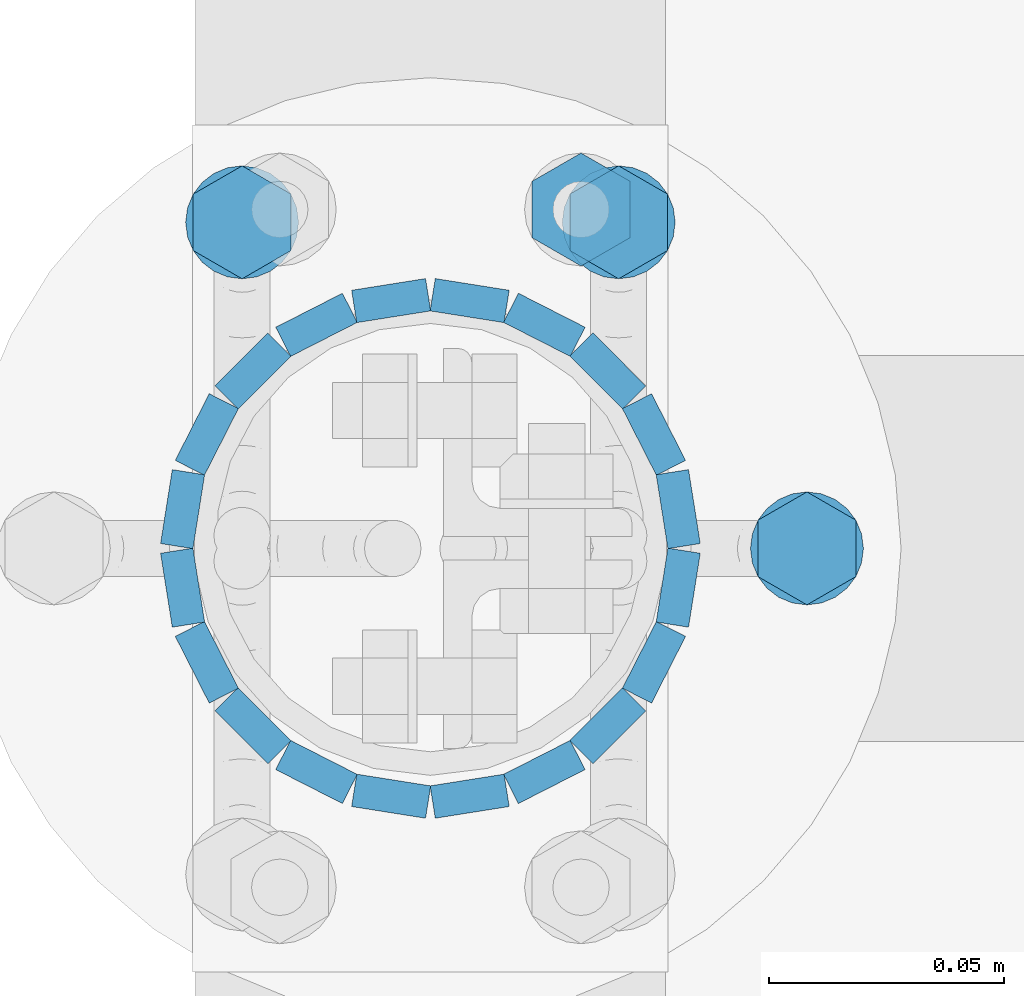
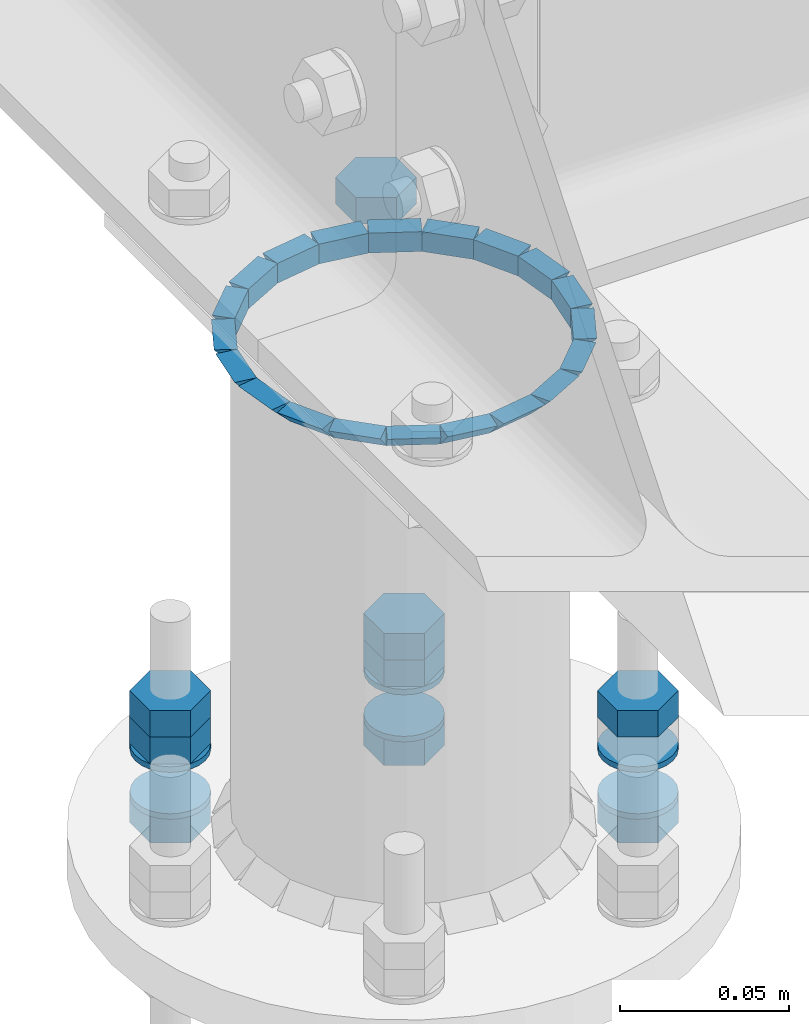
# One storey, part 17 of 84: 40 fasteners, 15 mechanical fasteners.
"""IFC4 building model written with IfcOpenShell, lengths in metres."""

import ifcopenshell
import ifcopenshell.guid

model = None  # the IFC model being written
_history = None  # IfcOwnerHistory: only IFC2X3 demands one
_inside = {}  # id of a spatial element -> (the spatial element, [elements in it])
_under = {}  # id of a project, library or spatial element -> (it, [spatial elements below it])
_declared = {}  # id of a project -> (the project, [libraries it declares])
_typed = {}  # id of a type object -> (the type object, [elements of that type])
_made_of = {}  # id of a material, layer set ... -> (it, [elements and type objects made of it])


def new_model(schema):
    """Start an empty IFC model of exactly this schema.

    Asked for "IFC4X3", IfcOpenShell would pick the latest addendum, in which some entities
    have other attributes; the version numbers below select the first issue.
    IFC2X3 requires an IfcOwnerHistory on every rooted entity: one is made here for all.
    """
    global model, _history
    if schema == "IFC4X3":
        model = ifcopenshell.file(schema_version=(4, 3, 0, 0))
    else:
        model = ifcopenshell.file(schema=schema)
    _inside.clear()
    _under.clear()
    _declared.clear()
    _typed.clear()
    _made_of.clear()
    _history = None
    if model.schema == "IFC2X3":
        org = make("IfcOrganization", Name="unknown")
        user = make(
            "IfcPersonAndOrganization",
            ThePerson=make("IfcPerson", FamilyName="unknown"),
            TheOrganization=org,
        )
        app = make(
            "IfcApplication",
            ApplicationDeveloper=org,
            Version="unknown",
            ApplicationFullName="unknown",
            ApplicationIdentifier="unknown",
        )
        _history = make(
            "IfcOwnerHistory",
            OwningUser=user,
            OwningApplication=app,
            ChangeAction="ADDED",
            CreationDate=0,
        )
    return model


def make(cls, **values):
    """One entity of the class cls with the attributes given. An attribute that is None is left unset."""
    return model.create_entity(
        cls, **{name: value for name, value in values.items() if value is not None}
    )


def rooted(cls, **values):
    """An entity with a GlobalId (a new one), such as an element, a storey or a relation."""
    return make(cls, GlobalId=ifcopenshell.guid.new(), OwnerHistory=_history, **values)


def si_unit(unit_type, name, prefix=None):
    """IfcSIUnit, for example si_unit("LENGTHUNIT", "METRE", prefix="MILLI")."""
    return make("IfcSIUnit", UnitType=unit_type, Prefix=prefix, Name=name)


def assignment(units):
    """IfcUnitAssignment: the units of a project."""
    return None if units is None else make("IfcUnitAssignment", Units=units)


def point(xyz):
    """IfcCartesianPoint."""
    return None if xyz is None else make("IfcCartesianPoint", Coordinates=xyz)


def direction(xyz):
    """IfcDirection."""
    return None if xyz is None else make("IfcDirection", DirectionRatios=xyz)


def frame(location, z_axis=None, x_axis=None):
    """IfcAxis2Placement3D, a coordinate frame: its origin and axes. An axis left out is left unset."""
    return make(
        "IfcAxis2Placement3D",
        Location=point(location),
        Axis=direction(z_axis),
        RefDirection=direction(x_axis),
    )


def origin_with_axes():
    """The frame at (0, 0, 0) with the z axis (0, 0, 1) and the x axis (1, 0, 0) written out."""
    return frame((0.0, 0.0, 0.0), z_axis=(0.0, 0.0, 1.0), x_axis=(1.0, 0.0, 0.0))


def place(relative_to, where):
    """IfcLocalPlacement: puts the frame where relative to a parent placement (None: the world)."""
    return make(
        "IfcLocalPlacement", PlacementRelTo=relative_to, RelativePlacement=where
    )


def context(
    kind, dimensions, precision=None, world=None, true_north=None, identifier=None
):
    """IfcGeometricRepresentationContext, for example the 3D "Model" context."""
    return make(
        "IfcGeometricRepresentationContext",
        ContextIdentifier=identifier,
        ContextType=kind,
        CoordinateSpaceDimension=dimensions,
        Precision=precision,
        WorldCoordinateSystem=world,
        TrueNorth=true_north,
    )


def project(units=None, contexts=None):
    """IfcProject with its units and contexts."""
    return rooted(
        "IfcProject",
        Name="project",
        RepresentationContexts=contexts,
        UnitsInContext=assignment(units),
    )


def spatial(cls, under=None, at=None, **own):
    """A site, building, storey or space (cls), placed at a placement, below another one or the project."""
    s = rooted(cls, ObjectPlacement=at, **own)
    if under is not None:
        _under.setdefault(under.id(), (under, []))[1].append(s)
    return s


def polyline(points):
    """IfcPolyline through the points."""
    return make("IfcPolyline", Points=[point(p) for p in points])


def outline(outer, holes=None, kind="AREA"):
    """IfcArbitraryClosedProfileDef: a profile drawn as a closed curve; with holes, ...WithVoids."""
    if holes is None:
        return make("IfcArbitraryClosedProfileDef", ProfileType=kind, OuterCurve=outer)
    return make(
        "IfcArbitraryProfileDefWithVoids",
        ProfileType=kind,
        OuterCurve=outer,
        InnerCurves=holes,
    )


def extrude(swept, where, along, depth):
    """IfcExtrudedAreaSolid: the profile swept, set in the frame where, extruded along a direction by depth."""
    return make(
        "IfcExtrudedAreaSolid",
        SweptArea=swept,
        Position=where,
        ExtrudedDirection=direction(along),
        Depth=depth,
    )


def shape(context_of_items, identifier, shape_type, items):
    """IfcShapeRepresentation: the items that make up one representation, for example the "Body"."""
    return make(
        "IfcShapeRepresentation",
        ContextOfItems=context_of_items,
        RepresentationIdentifier=identifier,
        RepresentationType=shape_type,
        Items=items,
    )


def made_of(thing, what):
    """Note that an element or type object is made of a material, layer set ...; save() writes the relation."""
    if what is not None:
        _made_of.setdefault(what.id(), (what, []))[1].append(thing)
    return thing


def type_object(cls, material=None, **own):
    """A type object (cls), such as IfcWallType, which elements share."""
    return made_of(rooted(cls, **own), material)


def element(
    cls,
    number,
    at=None,
    inside=None,
    cuts=None,
    type_object=None,
    material=None,
    context=None,
    identifier="Body",
    shape_type=None,
    held_by="IfcProductDefinitionShape",
    body=None,
    shapes=None,
    **own,
):
    """One element of the class cls, such as IfcWall. Its Tag is "e" and its number.

    at: its placement. inside: the storey or other place that contains it. cuts: it is an
    opening in that element (IfcRelVoidsElement). A single representation is given by context,
    identifier, shape_type and body (its items); several are given by shapes. held_by: the class
    of the entity that holds the representations. save() writes the other relations.
    """
    e = rooted(cls, Tag="e%d" % number, ObjectPlacement=at, **own)
    if body is not None:
        shapes = [shape(context, identifier, shape_type, body)]
    if shapes is not None:
        e.Representation = make(held_by, Representations=shapes)
    if inside is not None:
        _inside.setdefault(inside.id(), (inside, []))[1].append(e)
    if cuts is not None:
        rooted(
            "IfcRelVoidsElement", RelatingBuildingElement=cuts, RelatedOpeningElement=e
        )
    if type_object is not None:
        _typed.setdefault(type_object.id(), (type_object, []))[1].append(e)
    return made_of(e, material)


def aggregate(whole, parts):
    """IfcRelAggregates: a whole, such as a stair, and the parts it consists of."""
    return rooted("IfcRelAggregates", RelatingObject=whole, RelatedObjects=parts)


def save(model, path):
    """Write the relations noted so far, then the file.

    IfcRelAggregates (storeys below a building ...), IfcRelContainedInSpatialStructure (elements
    in a storey), IfcRelDefinesByType, IfcRelAssociatesMaterial and IfcRelDeclares: one each for
    every whole, place, type object, material and project.
    """
    for whole, parts in _under.values():
        aggregate(whole, parts)
    for where, things in _inside.values():
        rooted(
            "IfcRelContainedInSpatialStructure",
            RelatedElements=things,
            RelatingStructure=where,
        )
    for kind, things in _typed.values():
        rooted("IfcRelDefinesByType", RelatedObjects=things, RelatingType=kind)
    for what, things in _made_of.values():
        rooted("IfcRelAssociatesMaterial", RelatedObjects=things, RelatingMaterial=what)
    for by, libraries in _declared.values():
        rooted("IfcRelDeclares", RelatingContext=by, RelatedDefinitions=libraries)
    model.write(path)


model = new_model("IFC4")

# Units and contexts
model_context = context("Model", 3, precision=1e-05, world=origin_with_axes())
ifc_project = project(units=[si_unit("LENGTHUNIT", "METRE"), si_unit("AREAUNIT", "SQUARE_METRE"), si_unit("VOLUMEUNIT", "CUBIC_METRE"), si_unit("MASSUNIT", "GRAM", prefix="KILO"), si_unit("TIMEUNIT", "SECOND"), si_unit("PLANEANGLEUNIT", "RADIAN"), si_unit("SOLIDANGLEUNIT", "STERADIAN"), si_unit("THERMODYNAMICTEMPERATUREUNIT", "DEGREE_CELSIUS")], contexts=[model_context])

# Site, building, storey
placement_1 = place(None, origin_with_axes())
site = spatial("IfcSite", under=ifc_project, at=placement_1, Name="Italia", CompositionType="ELEMENT")
building = spatial("IfcBuilding", under=site, at=placement_1, Name="Tettoia", CompositionType="ELEMENT")
storey_placement = place(None, frame((0.0, 0.0, 4.199999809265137), z_axis=(0.0, 0.0, 1.0), x_axis=(1.0, 0.0, 0.0)))
storey = spatial("IfcBuildingStorey", under=building, at=storey_placement, Name="Storey 1", CompositionType="ELEMENT", Elevation=4.199999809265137)

# Mechanical fasteners
mechanical_fastener_type_1 = type_object("IfcMechanicalFastenerType", Name="Collegamento -001_0101", PredefinedType="BOLT")
placement_2 = place(placement_1, origin_with_axes())
mechanical_fastener_1_placement = place(placement_2, origin_with_axes())
element("IfcMechanicalFastener", 1, at=mechanical_fastener_1_placement, inside=storey, type_object=mechanical_fastener_type_1, Name="Collegamento -001_0101", NominalDiameter=0.0119999, context=model_context, shape_type="SweptSolid", body=[
    extrude(outline(polyline([(0.0, 0.0), (-0.0120001, 0.0), (-0.018, 0.0103922), (-0.0120001, 0.0207844), (0.0, 0.0207844), (0.00600004, 0.0103922), (0.0, 0.0)])), frame((8.38039, 2.006, 4.0266), z_axis=(0.0, 0.0, 1.0), x_axis=(0.0, 1.0, 0.0)), (0.0, 0.0, 1.0), 0.00960016),
])
mechanical_fastener_type_2 = type_object("IfcMechanicalFastenerType", Name="Collegamento -001_0101", PredefinedType="BOLT")
mechanical_fastener_2_placement = place(placement_2, origin_with_axes())
element("IfcMechanicalFastener", 2, at=mechanical_fastener_2_placement, inside=storey, type_object=mechanical_fastener_type_2, Name="Collegamento -001_0101", NominalDiameter=0.0119999, context=model_context, shape_type="SweptSolid", body=[
    extrude(outline(polyline([(0.0, 0.0), (-0.0120001, 0.0), (-0.018, 0.0103922), (-0.0120001, 0.0207844), (0.0, 0.0207844), (0.00600004, 0.0103922), (0.0, 0.0)])), frame((8.38039, 2.006, 3.9884), z_axis=(0.0, 0.0, 1.0), x_axis=(0.0, 1.0, 0.0)), (0.0, 0.0, 1.0), 0.00959992),
])
mechanical_fastener_type_3 = type_object("IfcMechanicalFastenerType", Name="Collegamento -001_0101", PredefinedType="BOLT")
mechanical_fastener_3_placement = place(placement_2, origin_with_axes())
element("IfcMechanicalFastener", 3, at=mechanical_fastener_3_placement, inside=storey, type_object=mechanical_fastener_type_3, Name="Collegamento -001_0101", NominalDiameter=0.024, context=model_context, shape_type="SweptSolid", body=[
    extrude(outline(polyline([(0.0, 0.0), (-0.000408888, -0.00310612), (-0.00160789, -0.00599957), (-0.00351477, -0.00848484), (-0.00600004, -0.0103922), (-0.00889421, -0.011591), (-0.0120001, -0.0120001), (-0.015106, -0.011591), (-0.0180001, -0.0103922), (-0.0204854, -0.00848484), (-0.0223924, -0.00599957), (-0.0235912, -0.00310612), (-0.024, 0.0), (-0.0235912, 0.00310612), (-0.0223924, 0.00599957), (-0.0204854, 0.00848484), (-0.0180001, 0.0103922), (-0.015106, 0.011591), (-0.0120001, 0.0120001), (-0.00889421, 0.011591), (-0.00600004, 0.0103922), (-0.00351477, 0.00848484), (-0.00160789, 0.00599957), (-0.000408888, 0.00310612), (0.0, 0.0)])), frame((8.37, 2.012, 4.015), z_axis=(0.0, 0.0, 1.0), x_axis=(0.0, 1.0, 0.0)), (0.0, 0.0, 1.0), 0.00200033),
])
mechanical_fastener_type_4 = type_object("IfcMechanicalFastenerType", Name="Collegamento -001_0101", PredefinedType="BOLT")
mechanical_fastener_4_placement = place(placement_2, origin_with_axes())
element("IfcMechanicalFastener", 4, at=mechanical_fastener_4_placement, inside=storey, type_object=mechanical_fastener_type_4, Name="Collegamento -001_0101", NominalDiameter=0.024, context=model_context, shape_type="SweptSolid", body=[
    extrude(outline(polyline([(0.0, 0.0), (-0.000408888, -0.00310612), (-0.00160789, -0.00599957), (-0.00351477, -0.00848484), (-0.00600004, -0.0103922), (-0.00889421, -0.011591), (-0.0120001, -0.0120001), (-0.015106, -0.011591), (-0.0180001, -0.0103922), (-0.0204854, -0.00848484), (-0.0223924, -0.00599957), (-0.0235912, -0.00310612), (-0.024, 0.0), (-0.0235912, 0.00310612), (-0.0223924, 0.00599957), (-0.0204854, 0.00848484), (-0.0180001, 0.0103922), (-0.015106, 0.011591), (-0.0120001, 0.0120001), (-0.00889421, 0.011591), (-0.00600004, 0.0103922), (-0.00351477, 0.00848484), (-0.00160789, 0.00599957), (-0.000408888, 0.00310612), (0.0, 0.0)])), frame((8.37, 2.012, 3.998), z_axis=(0.0, 0.0, 1.0), x_axis=(0.0, 1.0, 0.0)), (0.0, 0.0, 1.0), 0.00200009),
])
mechanical_fastener_type_5 = type_object("IfcMechanicalFastenerType", Name="Collegamento -001_0101", PredefinedType="BOLT")
mechanical_fastener_5_placement = place(placement_2, origin_with_axes())
element("IfcMechanicalFastener", 5, at=mechanical_fastener_5_placement, inside=storey, type_object=mechanical_fastener_type_5, Name="Collegamento -001_0101", NominalDiameter=0.0119999, context=model_context, shape_type="SweptSolid", body=[
    extrude(outline(polyline([(0.0, 0.0), (-0.0120001, 0.0), (-0.0180001, 0.0103922), (-0.0120001, 0.0207844), (0.0, 0.0207844), (0.00600004, 0.0103922), (0.0, 0.0)])), frame((8.34039, 2.07528, 4.017), z_axis=(0.0, 0.0, 1.0), x_axis=(0.0, 1.0, 0.0)), (0.0, 0.0, 1.0), 0.00959969),
])
mechanical_fastener_type_6 = type_object("IfcMechanicalFastenerType", Name="Collegamento -001_0101", PredefinedType="BOLT")
mechanical_fastener_6_placement = place(placement_2, origin_with_axes())
element("IfcMechanicalFastener", 6, at=mechanical_fastener_6_placement, inside=storey, type_object=mechanical_fastener_type_6, Name="Collegamento -001_0101", NominalDiameter=0.0119999, context=model_context, shape_type="SweptSolid", body=[
    extrude(outline(polyline([(0.0, 0.0), (-0.0120001, 0.0), (-0.0180001, 0.0103922), (-0.0120001, 0.0207844), (0.0, 0.0207844), (0.00600004, 0.0103922), (0.0, 0.0)])), frame((8.34039, 2.07528, 4.0266), z_axis=(0.0, 0.0, 1.0), x_axis=(0.0, 1.0, 0.0)), (0.0, 0.0, 1.0), 0.00960016),
])
mechanical_fastener_type_7 = type_object("IfcMechanicalFastenerType", Name="Collegamento -001_0101", PredefinedType="BOLT")
mechanical_fastener_7_placement = place(placement_2, origin_with_axes())
element("IfcMechanicalFastener", 7, at=mechanical_fastener_7_placement, inside=storey, type_object=mechanical_fastener_type_7, Name="Collegamento -001_0101", NominalDiameter=0.0119999, context=model_context, shape_type="SweptSolid", body=[
    extrude(outline(polyline([(0.0, 0.0), (-0.0120001, 0.0), (-0.0180001, 0.0103922), (-0.0120001, 0.0207844), (0.0, 0.0207844), (0.00600004, 0.0103922), (0.0, 0.0)])), frame((8.34039, 2.07528, 3.9884), z_axis=(0.0, 0.0, 1.0), x_axis=(0.0, 1.0, 0.0)), (0.0, 0.0, 1.0), 0.00959992),
])
mechanical_fastener_type_8 = type_object("IfcMechanicalFastenerType", Name="Collegamento -001_0101", PredefinedType="BOLT")
mechanical_fastener_8_placement = place(placement_2, origin_with_axes())
element("IfcMechanicalFastener", 8, at=mechanical_fastener_8_placement, inside=storey, type_object=mechanical_fastener_type_8, Name="Collegamento -001_0101", NominalDiameter=0.024, context=model_context, shape_type="SweptSolid", body=[
    extrude(outline(polyline([(0.0, 0.0), (-0.000408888, -0.00310612), (-0.00160789, -0.00599957), (-0.00351477, -0.00848484), (-0.00600004, -0.0103922), (-0.00889421, -0.011591), (-0.0120001, -0.0120001), (-0.015106, -0.011591), (-0.0180001, -0.0103922), (-0.0204854, -0.00848484), (-0.0223923, -0.00599957), (-0.0235913, -0.00310612), (-0.0240002, 0.0), (-0.0235913, 0.00310612), (-0.0223923, 0.00599957), (-0.0204854, 0.00848484), (-0.0180001, 0.0103922), (-0.015106, 0.011591), (-0.0120001, 0.0120001), (-0.00889421, 0.011591), (-0.00600004, 0.0103922), (-0.00351477, 0.00848484), (-0.00160789, 0.00599957), (-0.000408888, 0.00310612), (0.0, 0.0)])), frame((8.33, 2.08128, 4.015), z_axis=(0.0, 0.0, 1.0), x_axis=(0.0, 1.0, 0.0)), (0.0, 0.0, 1.0), 0.00200033),
])
mechanical_fastener_type_9 = type_object("IfcMechanicalFastenerType", Name="Collegamento -001_0101", PredefinedType="BOLT")
mechanical_fastener_9_placement = place(placement_2, origin_with_axes())
element("IfcMechanicalFastener", 9, at=mechanical_fastener_9_placement, inside=storey, type_object=mechanical_fastener_type_9, Name="Collegamento -001_0101", NominalDiameter=0.024, context=model_context, shape_type="SweptSolid", body=[
    extrude(outline(polyline([(0.0, 0.0), (-0.000408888, -0.00310612), (-0.00160789, -0.00599957), (-0.00351477, -0.00848484), (-0.00600004, -0.0103922), (-0.00889421, -0.011591), (-0.0120001, -0.0120001), (-0.015106, -0.011591), (-0.0180001, -0.0103922), (-0.0204854, -0.00848484), (-0.0223923, -0.00599957), (-0.0235913, -0.00310612), (-0.0240002, 0.0), (-0.0235913, 0.00310612), (-0.0223923, 0.00599957), (-0.0204854, 0.00848484), (-0.0180001, 0.0103922), (-0.015106, 0.011591), (-0.0120001, 0.0120001), (-0.00889421, 0.011591), (-0.00600004, 0.0103922), (-0.00351477, 0.00848484), (-0.00160789, 0.00599957), (-0.000408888, 0.00310612), (0.0, 0.0)])), frame((8.33, 2.08128, 3.998), z_axis=(0.0, 0.0, 1.0), x_axis=(0.0, 1.0, 0.0)), (0.0, 0.0, 1.0), 0.00200009),
])
mechanical_fastener_type_10 = type_object("IfcMechanicalFastenerType", Name="Collegamento -001_0101", PredefinedType="BOLT")
mechanical_fastener_10_placement = place(placement_2, origin_with_axes())
element("IfcMechanicalFastener", 10, at=mechanical_fastener_10_placement, inside=storey, type_object=mechanical_fastener_type_10, Name="Collegamento -001_0101", NominalDiameter=0.0119999, context=model_context, shape_type="SweptSolid", body=[
    extrude(outline(polyline([(0.0, 0.0), (-0.0120001, 0.0), (-0.0180001, 0.0103922), (-0.0120001, 0.0207844), (0.0, 0.0207844), (0.00600004, 0.0103922), (0.0, 0.0)])), frame((8.26039, 2.07528, 4.017), z_axis=(0.0, 0.0, 1.0), x_axis=(0.0, 1.0, 0.0)), (0.0, 0.0, 1.0), 0.00959969),
])
mechanical_fastener_type_11 = type_object("IfcMechanicalFastenerType", Name="Collegamento -001_0101", PredefinedType="BOLT")
mechanical_fastener_11_placement = place(placement_2, origin_with_axes())
element("IfcMechanicalFastener", 11, at=mechanical_fastener_11_placement, inside=storey, type_object=mechanical_fastener_type_11, Name="Collegamento -001_0101", NominalDiameter=0.0119999, context=model_context, shape_type="SweptSolid", body=[
    extrude(outline(polyline([(0.0, 0.0), (-0.0120001, 0.0), (-0.0180001, 0.0103922), (-0.0120001, 0.0207844), (0.0, 0.0207844), (0.00600004, 0.0103922), (0.0, 0.0)])), frame((8.26039, 2.07528, 4.0266), z_axis=(0.0, 0.0, 1.0), x_axis=(0.0, 1.0, 0.0)), (0.0, 0.0, 1.0), 0.00960016),
])
mechanical_fastener_type_12 = type_object("IfcMechanicalFastenerType", Name="Collegamento -001_0101", PredefinedType="BOLT")
mechanical_fastener_12_placement = place(placement_2, origin_with_axes())
element("IfcMechanicalFastener", 12, at=mechanical_fastener_12_placement, inside=storey, type_object=mechanical_fastener_type_12, Name="Collegamento -001_0101", NominalDiameter=0.0119999, context=model_context, shape_type="SweptSolid", body=[
    extrude(outline(polyline([(0.0, 0.0), (-0.0120001, 0.0), (-0.0180001, 0.0103922), (-0.0120001, 0.0207844), (0.0, 0.0207844), (0.00600004, 0.0103922), (0.0, 0.0)])), frame((8.26039, 2.07528, 3.9884), z_axis=(0.0, 0.0, 1.0), x_axis=(0.0, 1.0, 0.0)), (0.0, 0.0, 1.0), 0.00959992),
])
mechanical_fastener_type_13 = type_object("IfcMechanicalFastenerType", Name="Collegamento -001_0101", PredefinedType="BOLT")
mechanical_fastener_13_placement = place(placement_2, origin_with_axes())
element("IfcMechanicalFastener", 13, at=mechanical_fastener_13_placement, inside=storey, type_object=mechanical_fastener_type_13, Name="Collegamento -001_0101", NominalDiameter=0.024, context=model_context, shape_type="SweptSolid", body=[
    extrude(outline(polyline([(0.0, 0.0), (-0.000408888, -0.00310612), (-0.00160789, -0.00599957), (-0.00351477, -0.00848484), (-0.00600004, -0.0103922), (-0.00889421, -0.011591), (-0.0120001, -0.0120001), (-0.015106, -0.011591), (-0.0180001, -0.0103922), (-0.0204854, -0.00848484), (-0.0223923, -0.00599957), (-0.0235913, -0.00310612), (-0.0240002, 0.0), (-0.0235913, 0.00310612), (-0.0223923, 0.00599957), (-0.0204854, 0.00848484), (-0.0180001, 0.0103922), (-0.015106, 0.011591), (-0.0120001, 0.0120001), (-0.00889421, 0.011591), (-0.00600004, 0.0103922), (-0.00351477, 0.00848484), (-0.00160789, 0.00599957), (-0.000408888, 0.00310612), (0.0, 0.0)])), frame((8.25, 2.08128, 4.015), z_axis=(0.0, 0.0, 1.0), x_axis=(0.0, 1.0, 0.0)), (0.0, 0.0, 1.0), 0.00200033),
])
mechanical_fastener_type_14 = type_object("IfcMechanicalFastenerType", Name="Collegamento -001_0101", PredefinedType="BOLT")
mechanical_fastener_14_placement = place(placement_2, origin_with_axes())
element("IfcMechanicalFastener", 14, at=mechanical_fastener_14_placement, inside=storey, type_object=mechanical_fastener_type_14, Name="Collegamento -001_0101", NominalDiameter=0.024, context=model_context, shape_type="SweptSolid", body=[
    extrude(outline(polyline([(0.0, 0.0), (-0.000408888, -0.00310612), (-0.00160789, -0.00599957), (-0.00351477, -0.00848484), (-0.00600004, -0.0103922), (-0.00889421, -0.011591), (-0.0120001, -0.0120001), (-0.015106, -0.011591), (-0.0180001, -0.0103922), (-0.0204854, -0.00848484), (-0.0223923, -0.00599957), (-0.0235913, -0.00310612), (-0.0240002, 0.0), (-0.0235913, 0.00310612), (-0.0223923, 0.00599957), (-0.0204854, 0.00848484), (-0.0180001, 0.0103922), (-0.015106, 0.011591), (-0.0120001, 0.0120001), (-0.00889421, 0.011591), (-0.00600004, 0.0103922), (-0.00351477, 0.00848484), (-0.00160789, 0.00599957), (-0.000408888, 0.00310612), (0.0, 0.0)])), frame((8.25, 2.08128, 3.998), z_axis=(0.0, 0.0, 1.0), x_axis=(0.0, 1.0, 0.0)), (0.0, 0.0, 1.0), 0.00200009),
])

# Fasteners
fastener_type_1 = type_object("IfcFastenerType", Name="Collegamento 0101_-001", PredefinedType="WELD")
fastener_1_placement = place(placement_2, origin_with_axes())
element("IfcFastener", 15, at=fastener_1_placement, inside=storey, type_object=fastener_type_1, Name="Collegamento 0101_-001", context=model_context, shape_type="SweptSolid", body=[
    extrude(outline(polyline([(0.0, 0.0), (-0.00695801, -0.00717354), (-0.00695801, 0.0), (0.0, 0.0)])), frame((8.29103, 2.05733, 4.19505), z_axis=(0.987689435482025, -0.156427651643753, 0.0), x_axis=(0.156427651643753, 0.987689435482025, 0.0)), (0.0, 0.0, 1.0), 0.0158999),
])
fastener_type_2 = type_object("IfcFastenerType", Name="Collegamento 0101_-001", PredefinedType="WELD")
fastener_2_placement = place(placement_2, origin_with_axes())
element("IfcFastener", 16, at=fastener_2_placement, inside=storey, type_object=fastener_type_2, Name="Collegamento 0101_-001", context=model_context, shape_type="SweptSolid", body=[
    extrude(outline(polyline([(0.0, 0.0), (-0.00695848, -0.00717354), (-0.00695848, 0.0), (0.0, 0.0)])), frame((8.3087, 2.05421, 4.19505), z_axis=(0.891006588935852, -0.453990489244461, 0.0), x_axis=(0.453990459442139, 0.891006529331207, 0.0)), (0.0, 0.0, 1.0), 0.0158998),
])
fastener_type_3 = type_object("IfcFastenerType", Name="Collegamento 0101_-001", PredefinedType="WELD")
fastener_3_placement = place(placement_2, origin_with_axes())
element("IfcFastener", 17, at=fastener_3_placement, inside=storey, type_object=fastener_type_3, Name="Collegamento 0101_-001", context=model_context, shape_type="SweptSolid", body=[
    extrude(outline(polyline([(0.0, 0.0), (-0.00695848, -0.00717354), (-0.00695848, 0.0), (0.0, 0.0)])), frame((8.32453, 2.04578, 4.19505), z_axis=(0.707099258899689, -0.707114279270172, 0.0), x_axis=(0.707114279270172, 0.707099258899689, 0.0)), (0.0, 0.0, 1.0), 0.0159),
])
fastener_type_4 = type_object("IfcFastenerType", Name="Collegamento 0101_-001", PredefinedType="WELD")
fastener_4_placement = place(placement_2, origin_with_axes())
element("IfcFastener", 18, at=fastener_4_placement, inside=storey, type_object=fastener_type_4, Name="Collegamento 0101_-001", context=model_context, shape_type="SweptSolid", body=[
    extrude(outline(polyline([(0.0, 0.0), (-0.00695801, -0.00717354), (-0.00695801, 0.0), (0.0, 0.0)])), frame((8.33699, 2.03286, 4.19505), z_axis=(0.453990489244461, -0.891006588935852, 0.0), x_axis=(0.891006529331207, 0.453990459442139, 0.0)), (0.0, 0.0, 1.0), 0.0158998),
])
fastener_type_5 = type_object("IfcFastenerType", Name="Collegamento 0101_-001", PredefinedType="WELD")
fastener_5_placement = place(placement_2, origin_with_axes())
element("IfcFastener", 19, at=fastener_5_placement, inside=storey, type_object=fastener_type_5, Name="Collegamento 0101_-001", context=model_context, shape_type="SweptSolid", body=[
    extrude(outline(polyline([(0.0, 0.0), (-0.00695705, -0.00717354), (-0.00695705, 0.0), (0.0, 0.0)])), frame((8.34484, 2.01674, 4.19505), z_axis=(0.1564861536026, -0.987680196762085, 0.0), x_axis=(0.98768013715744, 0.156486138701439, 0.0)), (0.0, 0.0, 1.0), 0.0159),
])
fastener_type_6 = type_object("IfcFastenerType", Name="Collegamento 0101_-001", PredefinedType="WELD")
fastener_6_placement = place(placement_2, origin_with_axes())
element("IfcFastener", 20, at=fastener_6_placement, inside=storey, type_object=fastener_type_6, Name="Collegamento 0101_-001", context=model_context, shape_type="SweptSolid", body=[
    extrude(outline(polyline([(0.0, 0.0), (-0.00695848, -0.00717354), (-0.00695848, 0.0), (0.0, 0.0)])), frame((8.34733, 1.99897, 4.19505), z_axis=(-0.1564861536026, -0.987680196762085, 0.0), x_axis=(0.98768013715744, -0.156486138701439, 0.0)), (0.0, 0.0, 1.0), 0.0159),
])
fastener_type_7 = type_object("IfcFastenerType", Name="Collegamento 0101_-001", PredefinedType="WELD")
fastener_7_placement = place(placement_2, origin_with_axes())
element("IfcFastener", 21, at=fastener_7_placement, inside=storey, type_object=fastener_type_7, Name="Collegamento 0101_-001", context=model_context, shape_type="SweptSolid", body=[
    extrude(outline(polyline([(0.0, 0.0), (-0.00695801, -0.00717354), (-0.00695801, 0.0), (0.0, 0.0)])), frame((8.34421, 1.9813, 4.19505), z_axis=(-0.453990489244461, -0.891006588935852, 0.0), x_axis=(0.891006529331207, -0.453990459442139, 0.0)), (0.0, 0.0, 1.0), 0.0158998),
])
fastener_type_8 = type_object("IfcFastenerType", Name="Collegamento 0101_-001", PredefinedType="WELD")
fastener_8_placement = place(placement_2, origin_with_axes())
element("IfcFastener", 22, at=fastener_8_placement, inside=storey, type_object=fastener_type_8, Name="Collegamento 0101_-001", context=model_context, shape_type="SweptSolid", body=[
    extrude(outline(polyline([(0.0, 0.0), (-0.00695801, -0.00717354), (-0.00695801, 0.0), (0.0, 0.0)])), frame((8.33578, 1.96547, 4.19505), z_axis=(-0.70710301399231, -0.707110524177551, 0.0), x_axis=(0.707110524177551, -0.70710301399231, 0.0)), (0.0, 0.0, 1.0), 0.0158999),
])
fastener_type_9 = type_object("IfcFastenerType", Name="Collegamento 0101_-001", PredefinedType="WELD")
fastener_9_placement = place(placement_2, origin_with_axes())
element("IfcFastener", 23, at=fastener_9_placement, inside=storey, type_object=fastener_type_9, Name="Collegamento 0101_-001", context=model_context, shape_type="SweptSolid", body=[
    extrude(outline(polyline([(0.0, 0.0), (-0.00695801, -0.00717354), (-0.00695801, 0.0), (0.0, 0.0)])), frame((8.32286, 1.95301, 4.19505), z_axis=(-0.891009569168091, -0.453984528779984, 0.0), x_axis=(0.453984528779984, -0.891009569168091, 0.0)), (0.0, 0.0, 1.0), 0.0158998),
])
fastener_type_10 = type_object("IfcFastenerType", Name="Collegamento 0101_-001", PredefinedType="WELD")
fastener_10_placement = place(placement_2, origin_with_axes())
element("IfcFastener", 24, at=fastener_10_placement, inside=storey, type_object=fastener_type_10, Name="Collegamento 0101_-001", context=model_context, shape_type="SweptSolid", body=[
    extrude(outline(polyline([(0.0, 0.0), (-0.00695813, -0.00717354), (-0.00695813, 0.0), (0.0, 0.0)])), frame((8.30674, 1.94516, 4.19505), z_axis=(-0.987688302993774, -0.156434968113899, 0.0), x_axis=(0.156434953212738, -0.98768824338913, 0.0)), (0.0, 0.0, 1.0), 0.0158999),
])
fastener_type_11 = type_object("IfcFastenerType", Name="Collegamento 0101_-001", PredefinedType="WELD")
fastener_11_placement = place(placement_2, origin_with_axes())
element("IfcFastener", 25, at=fastener_11_placement, inside=storey, type_object=fastener_type_11, Name="Collegamento 0101_-001", context=model_context, shape_type="SweptSolid", body=[
    extrude(outline(polyline([(0.0, 0.0), (-0.00695825, -0.00717354), (-0.00695825, 0.0), (0.0, 0.0)])), frame((8.28897, 1.94267, 4.19505), z_axis=(-0.987688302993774, 0.156434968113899, 0.0), x_axis=(-0.156434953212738, -0.98768824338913, 0.0)), (0.0, 0.0, 1.0), 0.0158999),
])
fastener_type_12 = type_object("IfcFastenerType", Name="Collegamento 0101_-001", PredefinedType="WELD")
fastener_12_placement = place(placement_2, origin_with_axes())
element("IfcFastener", 26, at=fastener_12_placement, inside=storey, type_object=fastener_type_12, Name="Collegamento 0101_-001", context=model_context, shape_type="SweptSolid", body=[
    extrude(outline(polyline([(0.0, 0.0), (-0.00695896, -0.00717354), (-0.00695896, 0.0), (0.0, 0.0)])), frame((8.2713, 1.94579, 4.19505), z_axis=(-0.891006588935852, 0.453990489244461, 0.0), x_axis=(-0.453990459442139, -0.891006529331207, 0.0)), (0.0, 0.0, 1.0), 0.0158998),
])
fastener_type_13 = type_object("IfcFastenerType", Name="Collegamento 0101_-001", PredefinedType="WELD")
fastener_13_placement = place(placement_2, origin_with_axes())
element("IfcFastener", 27, at=fastener_13_placement, inside=storey, type_object=fastener_type_13, Name="Collegamento 0101_-001", context=model_context, shape_type="SweptSolid", body=[
    extrude(outline(polyline([(0.0, 0.0), (-0.00695848, -0.00717354), (-0.00695848, 0.0), (0.0, 0.0)])), frame((8.25547, 1.95422, 4.19505), z_axis=(-0.70710301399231, 0.707110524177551, 0.0), x_axis=(-0.707110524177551, -0.70710301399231, 0.0)), (0.0, 0.0, 1.0), 0.0158999),
])
fastener_type_14 = type_object("IfcFastenerType", Name="Collegamento 0101_-001", PredefinedType="WELD")
fastener_14_placement = place(placement_2, origin_with_axes())
element("IfcFastener", 28, at=fastener_14_placement, inside=storey, type_object=fastener_type_14, Name="Collegamento 0101_-001", context=model_context, shape_type="SweptSolid", body=[
    extrude(outline(polyline([(0.0, 0.0), (-0.00695801, -0.00717354), (-0.00695801, 0.0), (0.0, 0.0)])), frame((8.24301, 1.96714, 4.19505), z_axis=(-0.453990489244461, 0.891006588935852, 0.0), x_axis=(-0.891006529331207, -0.453990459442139, 0.0)), (0.0, 0.0, 1.0), 0.0158998),
])
fastener_type_15 = type_object("IfcFastenerType", Name="Collegamento 0101_-001", PredefinedType="WELD")
fastener_15_placement = place(placement_2, origin_with_axes())
element("IfcFastener", 29, at=fastener_15_placement, inside=storey, type_object=fastener_type_15, Name="Collegamento 0101_-001", context=model_context, shape_type="SweptSolid", body=[
    extrude(outline(polyline([(0.0, 0.0), (-0.00695801, -0.00717354), (-0.00695801, 0.0), (0.0, 0.0)])), frame((8.23516, 1.98326, 4.19505), z_axis=(-0.1564861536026, 0.987680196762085, 0.0), x_axis=(-0.98768013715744, -0.156486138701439, 0.0)), (0.0, 0.0, 1.0), 0.0159),
])
fastener_type_16 = type_object("IfcFastenerType", Name="Collegamento 0101_-001", PredefinedType="WELD")
fastener_16_placement = place(placement_2, origin_with_axes())
element("IfcFastener", 30, at=fastener_16_placement, inside=storey, type_object=fastener_type_16, Name="Collegamento 0101_-001", context=model_context, shape_type="SweptSolid", body=[
    extrude(outline(polyline([(0.0, 0.0), (-0.00695944, -0.00717354), (-0.00695944, 0.0), (0.0, 0.0)])), frame((8.23267, 2.00103, 4.19505), z_axis=(0.1564861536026, 0.987680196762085, 0.0), x_axis=(-0.98768013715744, 0.156486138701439, 0.0)), (0.0, 0.0, 1.0), 0.0159),
])
fastener_type_17 = type_object("IfcFastenerType", Name="Collegamento 0101_-001", PredefinedType="WELD")
fastener_17_placement = place(placement_2, origin_with_axes())
element("IfcFastener", 31, at=fastener_17_placement, inside=storey, type_object=fastener_type_17, Name="Collegamento 0101_-001", context=model_context, shape_type="SweptSolid", body=[
    extrude(outline(polyline([(0.0, 0.0), (-0.00695801, -0.00717354), (-0.00695801, 0.0), (0.0, 0.0)])), frame((8.23579, 2.0187, 4.19505), z_axis=(0.453990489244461, 0.891006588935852, 0.0), x_axis=(-0.891006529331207, 0.453990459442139, 0.0)), (0.0, 0.0, 1.0), 0.0158998),
])
fastener_type_18 = type_object("IfcFastenerType", Name="Collegamento 0101_-001", PredefinedType="WELD")
fastener_18_placement = place(placement_2, origin_with_axes())
element("IfcFastener", 32, at=fastener_18_placement, inside=storey, type_object=fastener_type_18, Name="Collegamento 0101_-001", context=model_context, shape_type="SweptSolid", body=[
    extrude(outline(polyline([(0.0, 0.0), (-0.00695848, -0.00717354), (-0.00695848, 0.0), (0.0, 0.0)])), frame((8.24422, 2.03453, 4.19505), z_axis=(0.707099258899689, 0.707114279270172, 0.0), x_axis=(-0.707114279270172, 0.707099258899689, 0.0)), (0.0, 0.0, 1.0), 0.0159),
])
fastener_type_19 = type_object("IfcFastenerType", Name="Collegamento 0101_-001", PredefinedType="WELD")
fastener_19_placement = place(placement_2, origin_with_axes())
element("IfcFastener", 33, at=fastener_19_placement, inside=storey, type_object=fastener_type_19, Name="Collegamento 0101_-001", context=model_context, shape_type="SweptSolid", body=[
    extrude(outline(polyline([(0.0, 0.0), (-0.00695825, -0.00717354), (-0.00695825, 0.0), (0.0, 0.0)])), frame((8.25714, 2.04699, 4.19505), z_axis=(0.891006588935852, 0.453990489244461, 0.0), x_axis=(-0.453990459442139, 0.891006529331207, 0.0)), (0.0, 0.0, 1.0), 0.0158998),
])
fastener_type_20 = type_object("IfcFastenerType", Name="Collegamento 0101_-001", PredefinedType="WELD")
fastener_20_placement = place(placement_2, origin_with_axes())
element("IfcFastener", 34, at=fastener_20_placement, inside=storey, type_object=fastener_type_20, Name="Collegamento 0101_-001", context=model_context, shape_type="SweptSolid", body=[
    extrude(outline(polyline([(0.0, 0.0), (-0.00695801, -0.00717354), (-0.00695801, 0.0), (0.0, 0.0)])), frame((8.27326, 2.05484, 4.19505), z_axis=(0.987689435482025, 0.156427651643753, 0.0), x_axis=(-0.156427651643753, 0.987689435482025, 0.0)), (0.0, 0.0, 1.0), 0.0158999),
])
fastener_type_21 = type_object("IfcFastenerType", Name="Collegamento 0101_-001", PredefinedType="WELD")
fastener_21_placement = place(placement_2, origin_with_axes())
element("IfcFastener", 35, at=fastener_21_placement, inside=storey, type_object=fastener_type_21, Name="Collegamento 0101_-001", context=model_context, shape_type="SweptSolid", body=[
    extrude(outline(polyline([(0.0, 0.0), (-0.00695801, -0.00717354), (-0.00695801, 0.0), (0.0, 0.0)])), frame((8.29103, 2.05733, 4.19505), z_axis=(0.987689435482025, -0.156427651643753, 0.0), x_axis=(0.156427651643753, 0.987689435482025, 0.0)), (0.0, 0.0, 1.0), 0.0158999),
])
fastener_type_22 = type_object("IfcFastenerType", Name="Collegamento 0101_-001", PredefinedType="WELD")
fastener_22_placement = place(placement_2, origin_with_axes())
element("IfcFastener", 36, at=fastener_22_placement, inside=storey, type_object=fastener_type_22, Name="Collegamento 0101_-001", context=model_context, shape_type="SweptSolid", body=[
    extrude(outline(polyline([(0.0, 0.0), (-0.00695848, -0.00717354), (-0.00695848, 0.0), (0.0, 0.0)])), frame((8.3087, 2.05421, 4.19505), z_axis=(0.891006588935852, -0.453990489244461, 0.0), x_axis=(0.453990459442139, 0.891006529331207, 0.0)), (0.0, 0.0, 1.0), 0.0158998),
])
fastener_type_23 = type_object("IfcFastenerType", Name="Collegamento 0101_-001", PredefinedType="WELD")
fastener_23_placement = place(placement_2, origin_with_axes())
element("IfcFastener", 37, at=fastener_23_placement, inside=storey, type_object=fastener_type_23, Name="Collegamento 0101_-001", context=model_context, shape_type="SweptSolid", body=[
    extrude(outline(polyline([(0.0, 0.0), (-0.00695848, -0.00717354), (-0.00695848, 0.0), (0.0, 0.0)])), frame((8.32453, 2.04578, 4.19505), z_axis=(0.707099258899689, -0.707114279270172, 0.0), x_axis=(0.707114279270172, 0.707099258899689, 0.0)), (0.0, 0.0, 1.0), 0.0159),
])
fastener_type_24 = type_object("IfcFastenerType", Name="Collegamento 0101_-001", PredefinedType="WELD")
fastener_24_placement = place(placement_2, origin_with_axes())
element("IfcFastener", 38, at=fastener_24_placement, inside=storey, type_object=fastener_type_24, Name="Collegamento 0101_-001", context=model_context, shape_type="SweptSolid", body=[
    extrude(outline(polyline([(0.0, 0.0), (-0.00695801, -0.00717354), (-0.00695801, 0.0), (0.0, 0.0)])), frame((8.33699, 2.03286, 4.19505), z_axis=(0.453990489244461, -0.891006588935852, 0.0), x_axis=(0.891006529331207, 0.453990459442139, 0.0)), (0.0, 0.0, 1.0), 0.0158998),
])
fastener_type_25 = type_object("IfcFastenerType", Name="Collegamento 0101_-001", PredefinedType="WELD")
fastener_25_placement = place(placement_2, origin_with_axes())
element("IfcFastener", 39, at=fastener_25_placement, inside=storey, type_object=fastener_type_25, Name="Collegamento 0101_-001", context=model_context, shape_type="SweptSolid", body=[
    extrude(outline(polyline([(0.0, 0.0), (-0.00695705, -0.00717354), (-0.00695705, 0.0), (0.0, 0.0)])), frame((8.34484, 2.01674, 4.19505), z_axis=(0.1564861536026, -0.987680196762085, 0.0), x_axis=(0.98768013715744, 0.156486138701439, 0.0)), (0.0, 0.0, 1.0), 0.0159),
])
fastener_type_26 = type_object("IfcFastenerType", Name="Collegamento 0101_-001", PredefinedType="WELD")
fastener_26_placement = place(placement_2, origin_with_axes())
element("IfcFastener", 40, at=fastener_26_placement, inside=storey, type_object=fastener_type_26, Name="Collegamento 0101_-001", context=model_context, shape_type="SweptSolid", body=[
    extrude(outline(polyline([(0.0, 0.0), (-0.00695848, -0.00717354), (-0.00695848, 0.0), (0.0, 0.0)])), frame((8.34733, 1.99897, 4.19505), z_axis=(-0.1564861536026, -0.987680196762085, 0.0), x_axis=(0.98768013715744, -0.156486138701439, 0.0)), (0.0, 0.0, 1.0), 0.0159),
])
fastener_type_27 = type_object("IfcFastenerType", Name="Collegamento 0101_-001", PredefinedType="WELD")
fastener_27_placement = place(placement_2, origin_with_axes())
element("IfcFastener", 41, at=fastener_27_placement, inside=storey, type_object=fastener_type_27, Name="Collegamento 0101_-001", context=model_context, shape_type="SweptSolid", body=[
    extrude(outline(polyline([(0.0, 0.0), (-0.00695801, -0.00717354), (-0.00695801, 0.0), (0.0, 0.0)])), frame((8.34421, 1.9813, 4.19505), z_axis=(-0.453990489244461, -0.891006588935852, 0.0), x_axis=(0.891006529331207, -0.453990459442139, 0.0)), (0.0, 0.0, 1.0), 0.0158998),
])
fastener_type_28 = type_object("IfcFastenerType", Name="Collegamento 0101_-001", PredefinedType="WELD")
fastener_28_placement = place(placement_2, origin_with_axes())
element("IfcFastener", 42, at=fastener_28_placement, inside=storey, type_object=fastener_type_28, Name="Collegamento 0101_-001", context=model_context, shape_type="SweptSolid", body=[
    extrude(outline(polyline([(0.0, 0.0), (-0.00695801, -0.00717354), (-0.00695801, 0.0), (0.0, 0.0)])), frame((8.33578, 1.96547, 4.19505), z_axis=(-0.70710301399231, -0.707110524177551, 0.0), x_axis=(0.707110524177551, -0.70710301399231, 0.0)), (0.0, 0.0, 1.0), 0.0158999),
])
fastener_type_29 = type_object("IfcFastenerType", Name="Collegamento 0101_-001", PredefinedType="WELD")
fastener_29_placement = place(placement_2, origin_with_axes())
element("IfcFastener", 43, at=fastener_29_placement, inside=storey, type_object=fastener_type_29, Name="Collegamento 0101_-001", context=model_context, shape_type="SweptSolid", body=[
    extrude(outline(polyline([(0.0, 0.0), (-0.00695801, -0.00717354), (-0.00695801, 0.0), (0.0, 0.0)])), frame((8.32286, 1.95301, 4.19505), z_axis=(-0.891009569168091, -0.453984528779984, 0.0), x_axis=(0.453984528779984, -0.891009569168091, 0.0)), (0.0, 0.0, 1.0), 0.0158998),
])
fastener_type_30 = type_object("IfcFastenerType", Name="Collegamento 0101_-001", PredefinedType="WELD")
fastener_30_placement = place(placement_2, origin_with_axes())
element("IfcFastener", 44, at=fastener_30_placement, inside=storey, type_object=fastener_type_30, Name="Collegamento 0101_-001", context=model_context, shape_type="SweptSolid", body=[
    extrude(outline(polyline([(0.0, 0.0), (-0.00695813, -0.00717354), (-0.00695813, 0.0), (0.0, 0.0)])), frame((8.30674, 1.94516, 4.19505), z_axis=(-0.987688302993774, -0.156434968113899, 0.0), x_axis=(0.156434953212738, -0.98768824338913, 0.0)), (0.0, 0.0, 1.0), 0.0158999),
])
fastener_type_31 = type_object("IfcFastenerType", Name="Collegamento 0101_-001", PredefinedType="WELD")
fastener_31_placement = place(placement_2, origin_with_axes())
element("IfcFastener", 45, at=fastener_31_placement, inside=storey, type_object=fastener_type_31, Name="Collegamento 0101_-001", context=model_context, shape_type="SweptSolid", body=[
    extrude(outline(polyline([(0.0, 0.0), (-0.00695825, -0.00717354), (-0.00695825, 0.0), (0.0, 0.0)])), frame((8.28897, 1.94267, 4.19505), z_axis=(-0.987688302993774, 0.156434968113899, 0.0), x_axis=(-0.156434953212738, -0.98768824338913, 0.0)), (0.0, 0.0, 1.0), 0.0158999),
])
fastener_type_32 = type_object("IfcFastenerType", Name="Collegamento 0101_-001", PredefinedType="WELD")
fastener_32_placement = place(placement_2, origin_with_axes())
element("IfcFastener", 46, at=fastener_32_placement, inside=storey, type_object=fastener_type_32, Name="Collegamento 0101_-001", context=model_context, shape_type="SweptSolid", body=[
    extrude(outline(polyline([(0.0, 0.0), (-0.00695896, -0.00717354), (-0.00695896, 0.0), (0.0, 0.0)])), frame((8.2713, 1.94579, 4.19505), z_axis=(-0.891006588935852, 0.453990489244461, 0.0), x_axis=(-0.453990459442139, -0.891006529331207, 0.0)), (0.0, 0.0, 1.0), 0.0158998),
])
fastener_type_33 = type_object("IfcFastenerType", Name="Collegamento 0101_-001", PredefinedType="WELD")
fastener_33_placement = place(placement_2, origin_with_axes())
element("IfcFastener", 47, at=fastener_33_placement, inside=storey, type_object=fastener_type_33, Name="Collegamento 0101_-001", context=model_context, shape_type="SweptSolid", body=[
    extrude(outline(polyline([(0.0, 0.0), (-0.00695848, -0.00717354), (-0.00695848, 0.0), (0.0, 0.0)])), frame((8.25547, 1.95422, 4.19505), z_axis=(-0.70710301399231, 0.707110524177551, 0.0), x_axis=(-0.707110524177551, -0.70710301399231, 0.0)), (0.0, 0.0, 1.0), 0.0158999),
])
fastener_type_34 = type_object("IfcFastenerType", Name="Collegamento 0101_-001", PredefinedType="WELD")
fastener_34_placement = place(placement_2, origin_with_axes())
element("IfcFastener", 48, at=fastener_34_placement, inside=storey, type_object=fastener_type_34, Name="Collegamento 0101_-001", context=model_context, shape_type="SweptSolid", body=[
    extrude(outline(polyline([(0.0, 0.0), (-0.00695801, -0.00717354), (-0.00695801, 0.0), (0.0, 0.0)])), frame((8.24301, 1.96714, 4.19505), z_axis=(-0.453990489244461, 0.891006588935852, 0.0), x_axis=(-0.891006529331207, -0.453990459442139, 0.0)), (0.0, 0.0, 1.0), 0.0158998),
])
fastener_type_35 = type_object("IfcFastenerType", Name="Collegamento 0101_-001", PredefinedType="WELD")
fastener_35_placement = place(placement_2, origin_with_axes())
element("IfcFastener", 49, at=fastener_35_placement, inside=storey, type_object=fastener_type_35, Name="Collegamento 0101_-001", context=model_context, shape_type="SweptSolid", body=[
    extrude(outline(polyline([(0.0, 0.0), (-0.00695801, -0.00717354), (-0.00695801, 0.0), (0.0, 0.0)])), frame((8.23516, 1.98326, 4.19505), z_axis=(-0.1564861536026, 0.987680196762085, 0.0), x_axis=(-0.98768013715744, -0.156486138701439, 0.0)), (0.0, 0.0, 1.0), 0.0159),
])
fastener_type_36 = type_object("IfcFastenerType", Name="Collegamento 0101_-001", PredefinedType="WELD")
fastener_36_placement = place(placement_2, origin_with_axes())
element("IfcFastener", 50, at=fastener_36_placement, inside=storey, type_object=fastener_type_36, Name="Collegamento 0101_-001", context=model_context, shape_type="SweptSolid", body=[
    extrude(outline(polyline([(0.0, 0.0), (-0.00695944, -0.00717354), (-0.00695944, 0.0), (0.0, 0.0)])), frame((8.23267, 2.00103, 4.19505), z_axis=(0.1564861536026, 0.987680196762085, 0.0), x_axis=(-0.98768013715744, 0.156486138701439, 0.0)), (0.0, 0.0, 1.0), 0.0159),
])
fastener_type_37 = type_object("IfcFastenerType", Name="Collegamento 0101_-001", PredefinedType="WELD")
fastener_37_placement = place(placement_2, origin_with_axes())
element("IfcFastener", 51, at=fastener_37_placement, inside=storey, type_object=fastener_type_37, Name="Collegamento 0101_-001", context=model_context, shape_type="SweptSolid", body=[
    extrude(outline(polyline([(0.0, 0.0), (-0.00695801, -0.00717354), (-0.00695801, 0.0), (0.0, 0.0)])), frame((8.23579, 2.0187, 4.19505), z_axis=(0.453990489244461, 0.891006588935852, 0.0), x_axis=(-0.891006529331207, 0.453990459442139, 0.0)), (0.0, 0.0, 1.0), 0.0158998),
])
fastener_type_38 = type_object("IfcFastenerType", Name="Collegamento 0101_-001", PredefinedType="WELD")
fastener_38_placement = place(placement_2, origin_with_axes())
element("IfcFastener", 52, at=fastener_38_placement, inside=storey, type_object=fastener_type_38, Name="Collegamento 0101_-001", context=model_context, shape_type="SweptSolid", body=[
    extrude(outline(polyline([(0.0, 0.0), (-0.00695848, -0.00717354), (-0.00695848, 0.0), (0.0, 0.0)])), frame((8.24422, 2.03453, 4.19505), z_axis=(0.707099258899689, 0.707114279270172, 0.0), x_axis=(-0.707114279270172, 0.707099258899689, 0.0)), (0.0, 0.0, 1.0), 0.0159),
])
fastener_type_39 = type_object("IfcFastenerType", Name="Collegamento 0101_-001", PredefinedType="WELD")
fastener_39_placement = place(placement_2, origin_with_axes())
element("IfcFastener", 53, at=fastener_39_placement, inside=storey, type_object=fastener_type_39, Name="Collegamento 0101_-001", context=model_context, shape_type="SweptSolid", body=[
    extrude(outline(polyline([(0.0, 0.0), (-0.00695825, -0.00717354), (-0.00695825, 0.0), (0.0, 0.0)])), frame((8.25714, 2.04699, 4.19505), z_axis=(0.891006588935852, 0.453990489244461, 0.0), x_axis=(-0.453990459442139, 0.891006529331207, 0.0)), (0.0, 0.0, 1.0), 0.0158998),
])
fastener_type_40 = type_object("IfcFastenerType", Name="Collegamento 0101_-001", PredefinedType="WELD")
fastener_40_placement = place(placement_2, origin_with_axes())
element("IfcFastener", 54, at=fastener_40_placement, inside=storey, type_object=fastener_type_40, Name="Collegamento 0101_-001", context=model_context, shape_type="SweptSolid", body=[
    extrude(outline(polyline([(0.0, 0.0), (-0.00695801, -0.00717354), (-0.00695801, 0.0), (0.0, 0.0)])), frame((8.27326, 2.05484, 4.19505), z_axis=(0.987689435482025, 0.156427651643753, 0.0), x_axis=(-0.156427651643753, 0.987689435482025, 0.0)), (0.0, 0.0, 1.0), 0.0158999),
])

# Mechanical fastener
mechanical_fastener_type_15 = type_object("IfcMechanicalFastenerType", Name="Collegamento 0101_-001", PredefinedType="BOLT")
mechanical_fastener_15_placement = place(placement_2, origin_with_axes())
element("IfcMechanicalFastener", 55, at=mechanical_fastener_15_placement, inside=storey, type_object=mechanical_fastener_type_15, Name="Collegamento 0101_-001", NominalDiameter=0.0119998, context=model_context, shape_type="SweptSolid", body=[
    extrude(outline(polyline([(0.0, 0.0), (0.0119998, 0.0), (0.0179999, -0.0103931), (0.0119998, -0.0207853), (0.0, -0.0207853), (-0.00600004, -0.0103931), (0.0, 0.0)])), frame((8.33239, 2.066, 4.195), z_axis=(0.0, 0.0, -1.0), x_axis=(0.0, 1.0, 0.0)), (0.0, 0.0, 1.0), 0.00959969),
])

save(model, "model.ifc")
